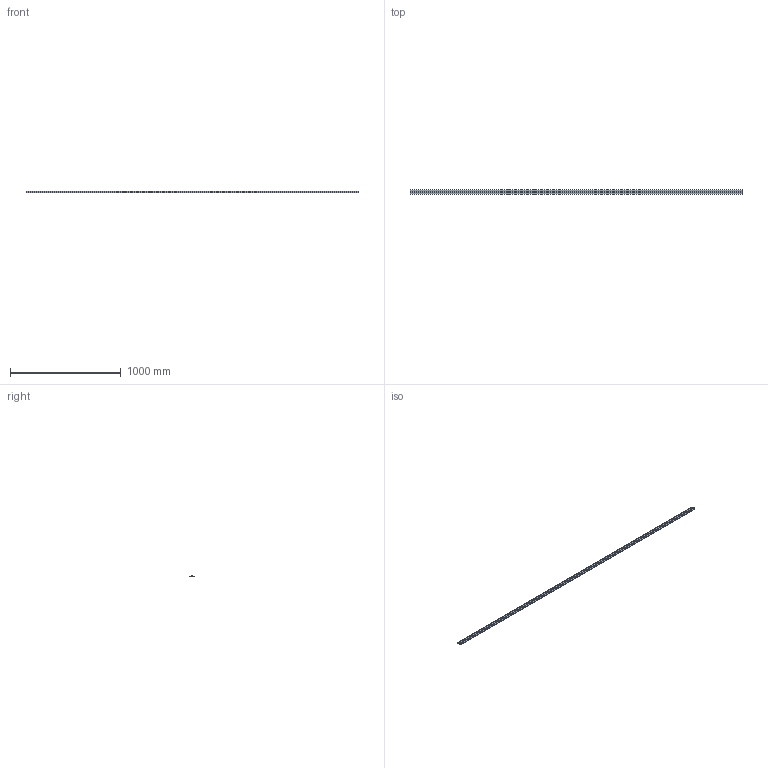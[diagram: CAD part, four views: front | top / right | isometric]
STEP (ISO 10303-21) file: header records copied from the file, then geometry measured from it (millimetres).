
FILE_DESCRIPTION (( 'STEP AP214' ), '1' );
FILE_NAME ('FABER - FL5S U40.step', '2017-04-06T07:46:17', ( '' ), ( '' ), 'SwSTEP 2.0', 'SolidWorks 2016', '' );
FILE_SCHEMA (( 'AUTOMOTIVE_DESIGN' ));
Length unit declared in the file: millimetre
Products named in the file (1): FABER - FL5S U40
Bounding box: 3000 x 40 x 12 mm (x, y, z)
Volume: 908250 mm3; surface area: 346848.1 mm2
Topology: 1 solids, 1 shells, 16 faces, 42 edges, 28 vertices
Faces by surface type: plane 16
Entity records: 520 total; most frequent: CARTESIAN_POINT 87, ORIENTED_EDGE 84, DIRECTION 76, LINE 42, EDGE_CURVE 42, VECTOR 42, VERTEX_POINT 28, AXIS2_PLACEMENT_3D 17
